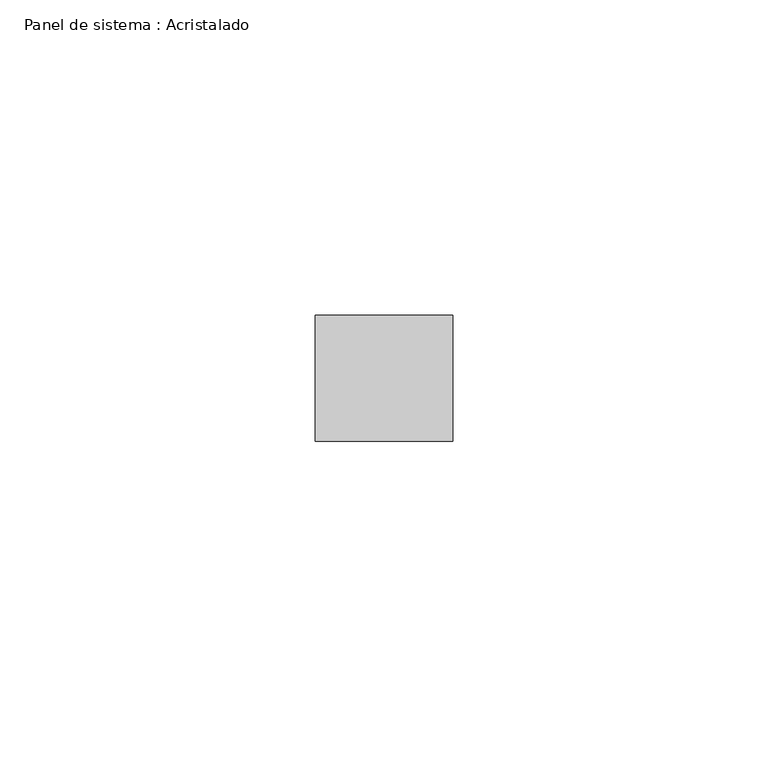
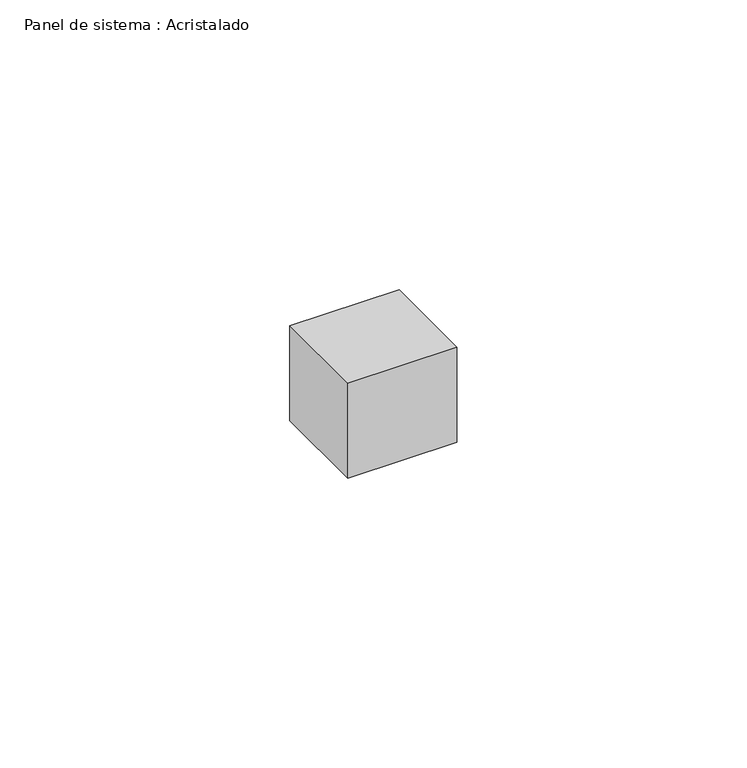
"""IFC4 building model written with IfcOpenShell, lengths in millimetres: plate geometry, Panel de sistema : Acristalado."""

from ifc_helpers import new_model, si_unit, origin, origin_with_axes, place, context, project, spatial, polyline, outline, extrude, source, transform, mapped, element, save


def panel_de_sistema_acristalado_0eb08eef(model_context):
    return source(origin(), model_context, "Body", "SweptSolid", [
        extrude(outline(polyline([(10.9028082, -10.0), (-10.9028082, -10.0), (-10.9028082, 10.0), (10.9028082, 10.0), (10.9028082, -10.0)])), origin_with_axes(), (0.0, 0.0, 1.0), 20.0),
    ])


if __name__ == "__main__":
    model = new_model("IFC4")
    model_context = context("Model", 3, world=origin())
    ifc_project = project(units=[si_unit("LENGTHUNIT", "METRE", prefix="MILLI")], contexts=[model_context])
    site = spatial("IfcSite", under=ifc_project)
    building = spatial("IfcBuilding", under=site)
    placement = place(None, origin())
    panel_de_sistema_acristalado_shape = panel_de_sistema_acristalado_0eb08eef(model_context)
    element("IfcPlate", 1, ObjectType="Panel de sistema : Acristalado", at=placement, inside=building, context=model_context, shape_type="MappedRepresentation", body=[
        mapped(panel_de_sistema_acristalado_shape, transform((0.0, 0.0, 0.0), x_axis=(1.0, 0.0, 0.0), y_axis=(0.0, 1.0, 0.0), z_axis=(0.0, 0.0, 1.0))),
    ])
    save(model, "model.ifc")
